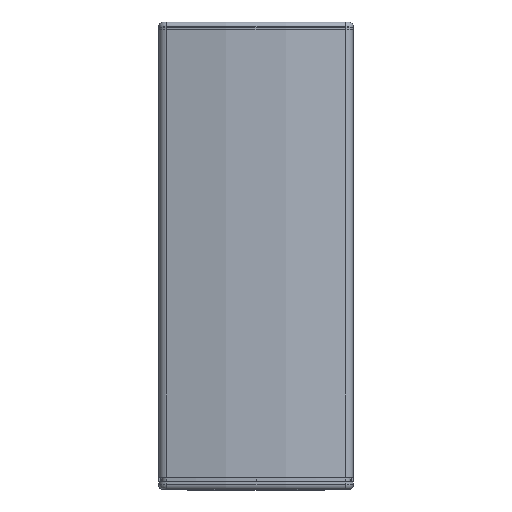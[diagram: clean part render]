
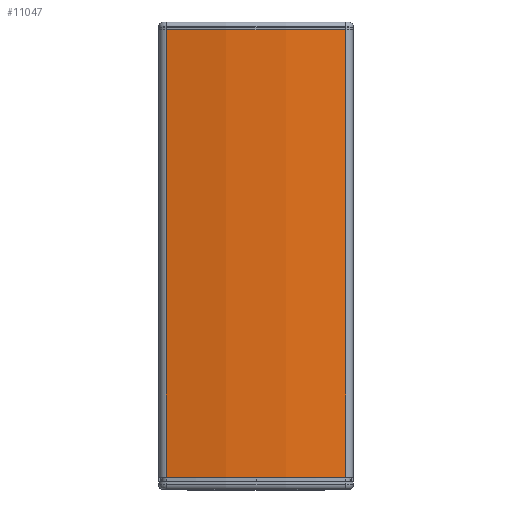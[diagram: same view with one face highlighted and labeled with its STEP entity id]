
A CAD part, top view. The second image highlights one B-rep face of the part: STEP entity #11047.
In plain terms, the highlighted cylindrical face has radius 499.5 mm (diameter 999 mm), a partial arc.
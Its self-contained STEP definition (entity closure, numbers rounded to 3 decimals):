
#8233 = AXIS2_PLACEMENT_3D ( 'NONE', #66082, #66112, #66081 ) ;
#8251 = AXIS2_PLACEMENT_3D ( 'NONE', #66109, #66098, #66094 ) ;
#8744 = AXIS2_PLACEMENT_3D ( 'NONE', #55391, #55369, #55371 ) ;
#11047 = ADVANCED_FACE ( 'NONE', ( #25070 ), #25058, .T. ) ;
#18065 = CIRCLE ( 'NONE', #8251, 499.5 ) ;
#18100 = LINE ( 'NONE', #66086, #18109 ) ;
#18102 = CIRCLE ( 'NONE', #8233, 499.5 ) ;
#18109 = VECTOR ( 'NONE', #66103, 1000. ) ;
#18127 = VECTOR ( 'NONE', #66145, 1000. ) ;
#18174 = LINE ( 'NONE', #66113, #18127 ) ;
#25058 = CYLINDRICAL_SURFACE ( 'NONE', #8744, 499.5 ) ;
#25070 = FACE_OUTER_BOUND ( 'NONE', #31145, .T. ) ;
#26931 = EDGE_CURVE ( 'NONE', #29007, #29063, #18065, .T. ) ;
#26942 = EDGE_CURVE ( 'NONE', #28983, #28990, #18102, .T. ) ;
#26943 = EDGE_CURVE ( 'NONE', #29007, #28983, #18100, .T. ) ;
#26962 = EDGE_CURVE ( 'NONE', #29063, #28990, #18174, .T. ) ;
#28536 = CARTESIAN_POINT ( 'NONE',  ( 114.875, 0., 41.611 ) ) ;
#28540 = CARTESIAN_POINT ( 'NONE',  ( -114.875, 578., 41.611 ) ) ;
#28580 = CARTESIAN_POINT ( 'NONE',  ( 114.875, 578., 41.611 ) ) ;
#28599 = CARTESIAN_POINT ( 'NONE',  ( -114.875, 0., 41.611 ) ) ;
#28983 = VERTEX_POINT ( 'NONE', #28580 ) ;
#28990 = VERTEX_POINT ( 'NONE', #28540 ) ;
#29007 = VERTEX_POINT ( 'NONE', #28536 ) ;
#29063 = VERTEX_POINT ( 'NONE', #28599 ) ;
#31145 = EDGE_LOOP ( 'NONE', ( #42005, #41995, #42062, #42054 ) ) ;
#41995 = ORIENTED_EDGE ( 'NONE', *, *, #26931, .F. ) ;
#42005 = ORIENTED_EDGE ( 'NONE', *, *, #26962, .F. ) ;
#42054 = ORIENTED_EDGE ( 'NONE', *, *, #26942, .T. ) ;
#42062 = ORIENTED_EDGE ( 'NONE', *, *, #26943, .T. ) ;
#55369 = DIRECTION ( 'NONE',  ( 0., -1., 0. ) ) ;
#55371 = DIRECTION ( 'NONE',  ( 0., 0., -1. ) ) ;
#55391 = CARTESIAN_POINT ( 'NONE',  ( 0., 0., -444.5 ) ) ;
#66081 = DIRECTION ( 'NONE',  ( 0., 0., -1. ) ) ;
#66082 = CARTESIAN_POINT ( 'NONE',  ( 0., 578., -444.5 ) ) ;
#66086 = CARTESIAN_POINT ( 'NONE',  ( 114.875, 0., 41.611 ) ) ;
#66094 = DIRECTION ( 'NONE',  ( 0., 0., -1. ) ) ;
#66098 = DIRECTION ( 'NONE',  ( 0., -1., 0. ) ) ;
#66103 = DIRECTION ( 'NONE',  ( 0., 1., 0. ) ) ;
#66109 = CARTESIAN_POINT ( 'NONE',  ( 0., 0., -444.5 ) ) ;
#66112 = DIRECTION ( 'NONE',  ( 0., -1., 0. ) ) ;
#66113 = CARTESIAN_POINT ( 'NONE',  ( -114.875, 0., 41.611 ) ) ;
#66145 = DIRECTION ( 'NONE',  ( 0., 1., 0. ) ) ;
